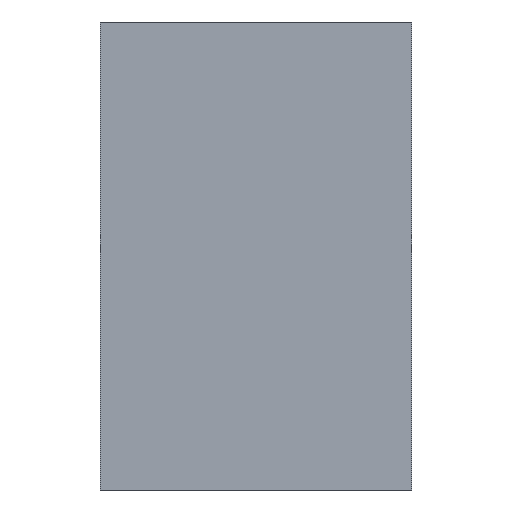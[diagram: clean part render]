
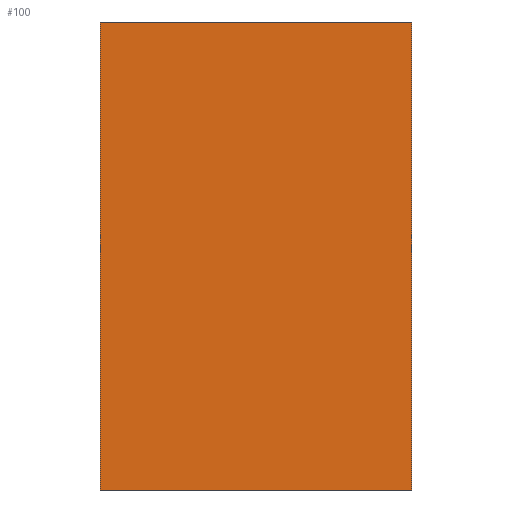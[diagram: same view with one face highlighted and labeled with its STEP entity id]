
A CAD part, left-side view. The second image highlights one B-rep face of the part: STEP entity #100.
In plain terms, the highlighted planar face has unit normal (-1, 0, 0).
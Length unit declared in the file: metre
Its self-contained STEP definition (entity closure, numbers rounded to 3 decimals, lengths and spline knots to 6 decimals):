
#20=ORIENTED_EDGE('',*,*,#43,.F.);
#21=ORIENTED_EDGE('',*,*,#44,.T.);
#22=ORIENTED_EDGE('',*,*,#40,.T.);
#23=ORIENTED_EDGE('',*,*,#45,.F.);
#40=EDGE_CURVE('',#52,#53,#60,.T.);
#43=EDGE_CURVE('',#54,#55,#63,.T.);
#44=EDGE_CURVE('',#54,#52,#64,.T.);
#45=EDGE_CURVE('',#55,#53,#65,.T.);
#52=VERTEX_POINT('',#161);
#53=VERTEX_POINT('',#162);
#54=VERTEX_POINT('',#167);
#55=VERTEX_POINT('',#168);
#60=LINE('',#160,#72);
#63=LINE('',#166,#75);
#64=LINE('',#169,#76);
#65=LINE('',#170,#77);
#72=VECTOR('',#133,1.);
#75=VECTOR('',#138,1.);
#76=VECTOR('',#139,1.);
#77=VECTOR('',#140,1.);
#82=EDGE_LOOP('',(#20,#21,#22,#23));
#88=FACE_BOUND('',#82,.T.);
#94=PLANE('',#119);
#100=ADVANCED_FACE('',(#88),#94,.T.);
#119=AXIS2_PLACEMENT_3D('',#165,#136,#137);
#133=DIRECTION('',(0.,0.,-1.));
#136=DIRECTION('',(-1.,0.,0.));
#137=DIRECTION('',(0.,-1.,0.));
#138=DIRECTION('',(0.,0.,-1.));
#139=DIRECTION('',(0.,1.,0.));
#140=DIRECTION('',(0.,1.,0.));
#160=CARTESIAN_POINT('',(0.0041,0.0085,0.001804));
#161=CARTESIAN_POINT('',(0.0041,0.0085,0.00095));
#162=CARTESIAN_POINT('',(0.0041,0.0085,0.0005));
#165=CARTESIAN_POINT('',(0.0041,0.0085,0.001804));
#166=CARTESIAN_POINT('',(0.0041,0.0082,0.001804));
#167=CARTESIAN_POINT('',(0.0041,0.0082,0.00095));
#168=CARTESIAN_POINT('',(0.0041,0.0082,0.0005));
#169=CARTESIAN_POINT('',(0.0041,0.0085,0.00095));
#170=CARTESIAN_POINT('',(0.0041,0.0085,0.0005));
